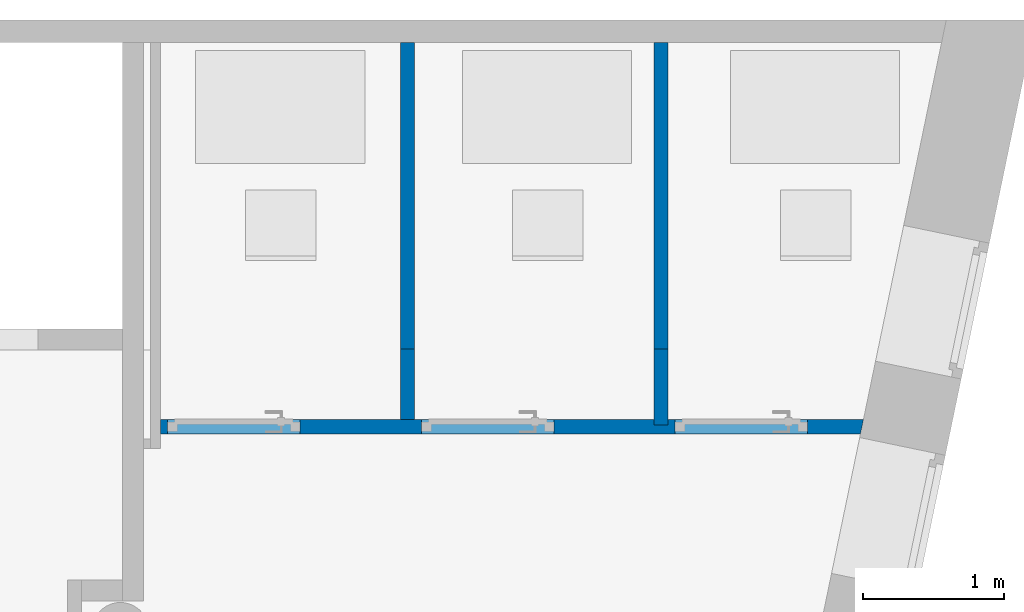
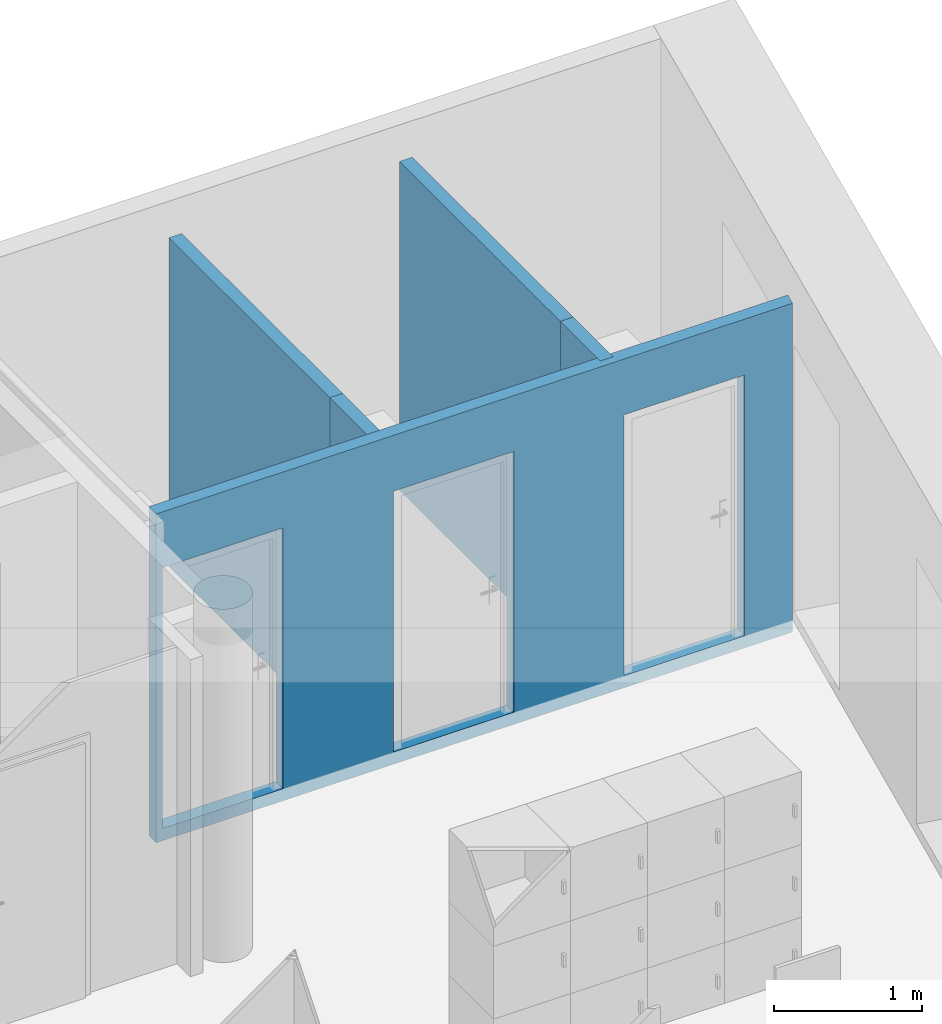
"""IFC4 building model written with IfcOpenShell, lengths in metres."""

import ifcopenshell
import ifcopenshell.guid

model = None  # the IFC model being written
_history = None  # IfcOwnerHistory: only IFC2X3 demands one
_inside = {}  # id of a spatial element -> (the spatial element, [elements in it])
_under = {}  # id of a project, library or spatial element -> (it, [spatial elements below it])
_declared = {}  # id of a project -> (the project, [libraries it declares])
_typed = {}  # id of a type object -> (the type object, [elements of that type])
_made_of = {}  # id of a material, layer set ... -> (it, [elements and type objects made of it])


def new_model(schema):
    """Start an empty IFC model of exactly this schema.

    Asked for "IFC4X3", IfcOpenShell would pick the latest addendum, in which some entities
    have other attributes; the version numbers below select the first issue.
    IFC2X3 requires an IfcOwnerHistory on every rooted entity: one is made here for all.
    """
    global model, _history
    if schema == "IFC4X3":
        model = ifcopenshell.file(schema_version=(4, 3, 0, 0))
    else:
        model = ifcopenshell.file(schema=schema)
    _inside.clear()
    _under.clear()
    _declared.clear()
    _typed.clear()
    _made_of.clear()
    _history = None
    if model.schema == "IFC2X3":
        org = make("IfcOrganization", Name="unknown")
        user = make(
            "IfcPersonAndOrganization",
            ThePerson=make("IfcPerson", FamilyName="unknown"),
            TheOrganization=org,
        )
        app = make(
            "IfcApplication",
            ApplicationDeveloper=org,
            Version="unknown",
            ApplicationFullName="unknown",
            ApplicationIdentifier="unknown",
        )
        _history = make(
            "IfcOwnerHistory",
            OwningUser=user,
            OwningApplication=app,
            ChangeAction="ADDED",
            CreationDate=0,
        )
    return model


def make(cls, **values):
    """One entity of the class cls with the attributes given. An attribute that is None is left unset."""
    return model.create_entity(
        cls, **{name: value for name, value in values.items() if value is not None}
    )


def entity(cls, *values):
    """Any entity or typed value of the class cls, its attributes in the order of the schema. None: left unset."""
    e = model.create_entity(cls)
    for i, value in enumerate(values):
        if value is not None:
            e[i] = value
    return e


def rooted(cls, **values):
    """An entity with a GlobalId (a new one), such as an element, a storey or a relation."""
    return make(cls, GlobalId=ifcopenshell.guid.new(), OwnerHistory=_history, **values)


def si_unit(unit_type, name, prefix=None):
    """IfcSIUnit, for example si_unit("LENGTHUNIT", "METRE", prefix="MILLI")."""
    return make("IfcSIUnit", UnitType=unit_type, Prefix=prefix, Name=name)


def converted_unit(unit_type, name, factor, base, dimensions=None, offset=None):
    """IfcConversionBasedUnit, such as the inch: factor (a typed value) times the base unit."""
    return make(
        "IfcConversionBasedUnit"
        if offset is None
        else "IfcConversionBasedUnitWithOffset",
        ConversionOffset=offset,
        Dimensions=None
        if dimensions is None
        else entity("IfcDimensionalExponents", *dimensions),
        UnitType=unit_type,
        Name=name,
        ConversionFactor=make(
            "IfcMeasureWithUnit", ValueComponent=factor, UnitComponent=base
        ),
    )


def derived_unit(unit_type, elements):
    """IfcDerivedUnit: a product of units, each with its exponent."""
    return make(
        "IfcDerivedUnit",
        Elements=[
            make("IfcDerivedUnitElement", Unit=unit, Exponent=power)
            for unit, power in elements
        ],
        UnitType=unit_type,
    )


def assignment(units):
    """IfcUnitAssignment: the units of a project."""
    return None if units is None else make("IfcUnitAssignment", Units=units)


def point(xyz):
    """IfcCartesianPoint."""
    return None if xyz is None else make("IfcCartesianPoint", Coordinates=xyz)


def direction(xyz):
    """IfcDirection."""
    return None if xyz is None else make("IfcDirection", DirectionRatios=xyz)


def frame(location, z_axis=None, x_axis=None):
    """IfcAxis2Placement3D, a coordinate frame: its origin and axes. An axis left out is left unset."""
    return make(
        "IfcAxis2Placement3D",
        Location=point(location),
        Axis=direction(z_axis),
        RefDirection=direction(x_axis),
    )


def frame_2d(location, x_axis=None):
    """IfcAxis2Placement2D, a coordinate frame in the plane: its origin and x axis."""
    return make(
        "IfcAxis2Placement2D", Location=point(location), RefDirection=direction(x_axis)
    )


def origin():
    """The frame at (0, 0, 0) with its axes left unset."""
    return frame((0.0, 0.0, 0.0))


def origin_with_axes():
    """The frame at (0, 0, 0) with the z axis (0, 0, 1) and the x axis (1, 0, 0) written out."""
    return frame((0.0, 0.0, 0.0), z_axis=(0.0, 0.0, 1.0), x_axis=(1.0, 0.0, 0.0))


def place(relative_to, where):
    """IfcLocalPlacement: puts the frame where relative to a parent placement (None: the world)."""
    return make(
        "IfcLocalPlacement", PlacementRelTo=relative_to, RelativePlacement=where
    )


def context(
    kind, dimensions, precision=None, world=None, true_north=None, identifier=None
):
    """IfcGeometricRepresentationContext, for example the 3D "Model" context."""
    return make(
        "IfcGeometricRepresentationContext",
        ContextIdentifier=identifier,
        ContextType=kind,
        CoordinateSpaceDimension=dimensions,
        Precision=precision,
        WorldCoordinateSystem=world,
        TrueNorth=true_north,
    )


def subcontext(parent, identifier, kind, view, scale=None):
    """IfcGeometricRepresentationSubContext, for example "Body" below "Model"."""
    return make(
        "IfcGeometricRepresentationSubContext",
        ContextIdentifier=identifier,
        ContextType=kind,
        ParentContext=parent,
        TargetScale=scale,
        TargetView=view,
    )


def project(units=None, contexts=None):
    """IfcProject with its units and contexts."""
    return rooted(
        "IfcProject",
        Name="project",
        RepresentationContexts=contexts,
        UnitsInContext=assignment(units),
    )


def spatial(cls, under=None, at=None, **own):
    """A site, building, storey or space (cls), placed at a placement, below another one or the project."""
    s = rooted(cls, ObjectPlacement=at, **own)
    if under is not None:
        _under.setdefault(under.id(), (under, []))[1].append(s)
    return s


def polyline(points):
    """IfcPolyline through the points."""
    return make("IfcPolyline", Points=[point(p) for p in points])


def profile(cls, at=None, kind="AREA", **sizes):
    """A parametric profile (cls). Its sizes go by their IFC names, for example OverallWidth=200.0."""
    return make(cls, ProfileType=kind, Position=at, **sizes)


def rectangle(**sizes):
    """IfcRectangleProfileDef."""
    return profile("IfcRectangleProfileDef", **sizes)


def outline(outer, holes=None, kind="AREA"):
    """IfcArbitraryClosedProfileDef: a profile drawn as a closed curve; with holes, ...WithVoids."""
    if holes is None:
        return make("IfcArbitraryClosedProfileDef", ProfileType=kind, OuterCurve=outer)
    return make(
        "IfcArbitraryProfileDefWithVoids",
        ProfileType=kind,
        OuterCurve=outer,
        InnerCurves=holes,
    )


def extrude(swept, where, along, depth):
    """IfcExtrudedAreaSolid: the profile swept, set in the frame where, extruded along a direction by depth."""
    return make(
        "IfcExtrudedAreaSolid",
        SweptArea=swept,
        Position=where,
        ExtrudedDirection=direction(along),
        Depth=depth,
    )


def shape(context_of_items, identifier, shape_type, items):
    """IfcShapeRepresentation: the items that make up one representation, for example the "Body"."""
    return make(
        "IfcShapeRepresentation",
        ContextOfItems=context_of_items,
        RepresentationIdentifier=identifier,
        RepresentationType=shape_type,
        Items=items,
    )


def material(Name=None, Category=None):
    """IfcMaterial."""
    return make("IfcMaterial", Name=Name, Category=Category)


def layer(
    of_material, thickness, ventilated=None, Name=None, Category=None, Priority=None
):
    """IfcMaterialLayer: one layer of a wall or slab, of a material (None: an air gap)."""
    return make(
        "IfcMaterialLayer",
        Material=of_material,
        LayerThickness=thickness,
        IsVentilated=ventilated,
        Name=Name,
        Category=Category,
        Priority=Priority,
    )


def layer_set(layers, Name=None):
    """IfcMaterialLayerSet."""
    return make("IfcMaterialLayerSet", MaterialLayers=layers, LayerSetName=Name)


def layer_usage(for_layer_set, set_direction, sense, offset, extent=None):
    """IfcMaterialLayerSetUsage: how a layer set lies in its element."""
    return make(
        "IfcMaterialLayerSetUsage",
        ForLayerSet=for_layer_set,
        LayerSetDirection=set_direction,
        DirectionSense=sense,
        OffsetFromReferenceLine=offset,
        ReferenceExtent=extent,
    )


def made_of(thing, what):
    """Note that an element or type object is made of a material, layer set ...; save() writes the relation."""
    if what is not None:
        _made_of.setdefault(what.id(), (what, []))[1].append(thing)
    return thing


def element(
    cls,
    number,
    at=None,
    inside=None,
    cuts=None,
    type_object=None,
    material=None,
    context=None,
    identifier="Body",
    shape_type=None,
    held_by="IfcProductDefinitionShape",
    body=None,
    shapes=None,
    **own,
):
    """One element of the class cls, such as IfcWall. Its Tag is "e" and its number.

    at: its placement. inside: the storey or other place that contains it. cuts: it is an
    opening in that element (IfcRelVoidsElement). A single representation is given by context,
    identifier, shape_type and body (its items); several are given by shapes. held_by: the class
    of the entity that holds the representations. save() writes the other relations.
    """
    e = rooted(cls, Tag="e%d" % number, ObjectPlacement=at, **own)
    if body is not None:
        shapes = [shape(context, identifier, shape_type, body)]
    if shapes is not None:
        e.Representation = make(held_by, Representations=shapes)
    if inside is not None:
        _inside.setdefault(inside.id(), (inside, []))[1].append(e)
    if cuts is not None:
        rooted(
            "IfcRelVoidsElement", RelatingBuildingElement=cuts, RelatedOpeningElement=e
        )
    if type_object is not None:
        _typed.setdefault(type_object.id(), (type_object, []))[1].append(e)
    return made_of(e, material)


def aggregate(whole, parts):
    """IfcRelAggregates: a whole, such as a stair, and the parts it consists of."""
    return rooted("IfcRelAggregates", RelatingObject=whole, RelatedObjects=parts)


def save(model, path):
    """Write the relations noted so far, then the file.

    IfcRelAggregates (storeys below a building ...), IfcRelContainedInSpatialStructure (elements
    in a storey), IfcRelDefinesByType, IfcRelAssociatesMaterial and IfcRelDeclares: one each for
    every whole, place, type object, material and project.
    """
    for whole, parts in _under.values():
        aggregate(whole, parts)
    for where, things in _inside.values():
        rooted(
            "IfcRelContainedInSpatialStructure",
            RelatedElements=things,
            RelatingStructure=where,
        )
    for kind, things in _typed.values():
        rooted("IfcRelDefinesByType", RelatedObjects=things, RelatingType=kind)
    for what, things in _made_of.values():
        rooted("IfcRelAssociatesMaterial", RelatedObjects=things, RelatingMaterial=what)
    for by, libraries in _declared.values():
        rooted("IfcRelDeclares", RelatingContext=by, RelatedDefinitions=libraries)
    model.write(path)


model = new_model("IFC4")

# Units and contexts
model_context = context("Model", 3, precision=1e-05, world=origin())
body_context = subcontext(model_context, "Body", "Model", "MODEL_VIEW")
ifc_project = project(units=[si_unit("LENGTHUNIT", "METRE"), si_unit("AREAUNIT", "SQUARE_METRE"), si_unit("VOLUMEUNIT", "CUBIC_METRE"), si_unit("MASSUNIT", "GRAM", prefix="KILO"), converted_unit("PLANEANGLEUNIT", "DEGREE", entity("IfcPlaneAngleMeasure", 0.0174532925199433), si_unit("PLANEANGLEUNIT", "RADIAN"), dimensions=[0, 0, 0, 0, 0, 0, 0]), derived_unit("THERMALTRANSMITTANCEUNIT", [(si_unit("POWERUNIT", "WATT"), 1), (si_unit("THERMODYNAMICTEMPERATUREUNIT", "KELVIN"), -1), (si_unit("LENGTHUNIT", "METRE"), -2)]), derived_unit("VOLUMETRICFLOWRATEUNIT", [(si_unit("LENGTHUNIT", "METRE"), 3), (converted_unit("TIMEUNIT", "hour", entity("IfcTimeMeasure", 3600.0), si_unit("TIMEUNIT", "SECOND"), dimensions=[0, 0, 1, 0, 0, 0, 0]), -1), (si_unit("LENGTHUNIT", "METRE"), -1)])], contexts=[model_context])

# Building, storeys
building_placement = place(None, origin())
building = spatial("IfcBuilding", under=ifc_project, at=building_placement, Name="HABITATGE PLURIFAMILIAR", CompositionType="ELEMENT")
storey_1_placement = place(building_placement, frame((0.0, 0.0, 15.28)))
storey_1 = spatial("IfcBuildingStorey", under=building, at=storey_1_placement, Name="PLANTA QUARTA", CompositionType="ELEMENT", Elevation=15.28)
storey_2_placement = place(storey_1_placement, frame((0.0, 0.0, 12.27)))
storey_2 = spatial("IfcBuildingStorey", under=storey_1, at=storey_2_placement, Name="NOU", CompositionType="PARTIAL")

# Wall, openings
ifc_material_1 = material()
ifc_layer_1 = layer(ifc_material_1, 0.1)
ifc_layer_set_1 = layer_set([ifc_layer_1])
ifc_layer_usage_1 = layer_usage(ifc_layer_set_1, "AXIS2", "POSITIVE", 0.0)
wall_1_placement = place(storey_2_placement, frame((426.259243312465, 25.3949838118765, -12.37), z_axis=(0.0, 0.0, 1.0), x_axis=(-1.0, 0.0, 0.0)))
wall_1 = element("IfcWall", 1, at=wall_1_placement, inside=storey_2, material=ifc_layer_usage_1, Name="Mampara P4", context=body_context, shape_type="SweptSolid", body=[
    extrude(outline(polyline([(-3.49715302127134, -0.1), (0.0, -0.1), (0.0, 0.0), (-4.96153459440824, 0.0), (-4.98225854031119, -0.1), (-3.59715302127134, -0.1), (-3.59715302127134, -0.0608322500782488), (-3.49715302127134, -0.0608322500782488), (-3.49715302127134, -0.1)])), frame((4.98225854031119, 0.1, 0.0), z_axis=(0.0, 0.0, 1.0), x_axis=(1.0, 0.0, 0.0)), (0.0, 0.0, 1.0), 2.71),
])
opening_1_placement = place(wall_1_placement, frame((3.99225854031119, 0.0, 0.1), z_axis=(0.0, 1.0, 0.0), x_axis=(0.0, 0.0, 1.0)))
element("IfcOpeningElement", 2, at=opening_1_placement, cuts=wall_1, Name="Vano porta P4", ObjectType="Opening", context=body_context, shape_type="SweptSolid", body=[
    extrude(outline(polyline([(2.15, 0.94), (2.15, 0.0), (0.0, 0.0), (0.0, 0.94), (2.15, 0.94)])), origin_with_axes(), (0.0, 0.0, 1.0), 0.1),
])
opening_2_placement = place(wall_1_placement, frame((2.19225854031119, 0.0, 0.1), z_axis=(0.0, 1.0, 0.0), x_axis=(0.0, 0.0, 1.0)))
element("IfcOpeningElement", 3, at=opening_2_placement, cuts=wall_1, Name="Vano porta P4", ObjectType="Opening", context=body_context, shape_type="SweptSolid", body=[
    extrude(outline(polyline([(2.15, 0.94), (2.15, 0.0), (0.0, 0.0), (0.0, 0.94), (2.15, 0.94)])), origin_with_axes(), (0.0, 0.0, 1.0), 0.1),
])
opening_3_placement = place(wall_1_placement, frame((0.395105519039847, 0.0, 0.1), z_axis=(0.0, 1.0, 0.0), x_axis=(0.0, 0.0, 1.0)))
element("IfcOpeningElement", 4, at=opening_3_placement, cuts=wall_1, Name="Vano porta P4", ObjectType="Opening", context=body_context, shape_type="SweptSolid", body=[
    extrude(outline(polyline([(2.15, 0.94), (2.15, 0.0), (0.0, 0.0), (0.0, 0.94), (2.15, 0.94)])), origin_with_axes(), (0.0, 0.0, 1.0), 0.1),
])

# Walls
ifc_material_2 = material()
ifc_layer_2 = layer(ifc_material_2, 0.1)
ifc_layer_set_2 = layer_set([ifc_layer_2])
ifc_layer_usage_2 = layer_usage(ifc_layer_set_2, "AXIS2", "POSITIVE", 0.0)
wall_2_placement = place(storey_2_placement, frame((423.076984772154, 25.8958160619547, -12.37), z_axis=(0.0, 0.0, 1.0), x_axis=(0.0, 1.0, 0.0)))
element("IfcWall", 5, at=wall_2_placement, inside=storey_2, material=ifc_layer_usage_2, Name="Evans P4", context=body_context, shape_type="SweptSolid", body=[
    extrude(rectangle(XDim=2.17243184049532, YDim=0.1, at=frame_2d((1.08621592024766, 0.05), x_axis=(1.0, 0.0))), origin_with_axes(), (0.0, 0.0, 1.0), 2.71),
])
ifc_material_3 = material()
ifc_layer_3 = layer(ifc_material_3, 0.1)
ifc_layer_set_3 = layer_set([ifc_layer_3])
ifc_layer_usage_3 = layer_usage(ifc_layer_set_3, "AXIS2", "POSITIVE", 0.0)
wall_3_placement = place(storey_2_placement, frame((423.076984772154, 25.3949838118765, -12.37), z_axis=(0.0, 0.0, 1.0), x_axis=(0.0, 1.0, 0.0)))
element("IfcWall", 6, at=wall_3_placement, inside=storey_2, material=ifc_layer_usage_3, Name="Mampara P4", context=body_context, shape_type="SweptSolid", body=[
    extrude(rectangle(XDim=0.500832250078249, YDim=0.1, at=frame_2d((0.250416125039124, 0.05), x_axis=(1.0, 0.0))), origin_with_axes(), (0.0, 0.0, 1.0), 2.71),
])
ifc_material_4 = material()
ifc_layer_4 = layer(ifc_material_4, 0.1)
ifc_layer_set_4 = layer_set([ifc_layer_4])
ifc_layer_usage_4 = layer_usage(ifc_layer_set_4, "AXIS2", "POSITIVE", 0.0)
wall_4_placement = place(storey_2_placement, frame((424.874137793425, 25.8958160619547, -12.37), z_axis=(0.0, 0.0, 1.0), x_axis=(0.0, 1.0, 0.0)))
element("IfcWall", 7, at=wall_4_placement, inside=storey_2, material=ifc_layer_usage_4, Name="Evans P4", context=body_context, shape_type="SweptSolid", body=[
    extrude(rectangle(XDim=2.17243184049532, YDim=0.1, at=frame_2d((1.08621592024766, 0.05), x_axis=(1.0, 0.0))), origin_with_axes(), (0.0, 0.0, 1.0), 2.71),
])
ifc_material_5 = material()
ifc_layer_5 = layer(ifc_material_5, 0.1)
ifc_layer_set_5 = layer_set([ifc_layer_5])
ifc_layer_usage_5 = layer_usage(ifc_layer_set_5, "AXIS2", "POSITIVE", 0.0)
wall_5_placement = place(storey_2_placement, frame((424.874137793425, 25.3558160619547, -12.37), z_axis=(0.0, 0.0, 1.0), x_axis=(0.0, 1.0, 0.0)))
element("IfcWall", 8, at=wall_5_placement, inside=storey_2, material=ifc_layer_usage_5, Name="Mampara P4", context=body_context, shape_type="SweptSolid", body=[
    extrude(rectangle(XDim=0.54, YDim=0.1, at=frame_2d((0.27, 0.05), x_axis=(1.0, 0.0))), origin_with_axes(), (0.0, 0.0, 1.0), 2.71),
])

save(model, "model.ifc")
